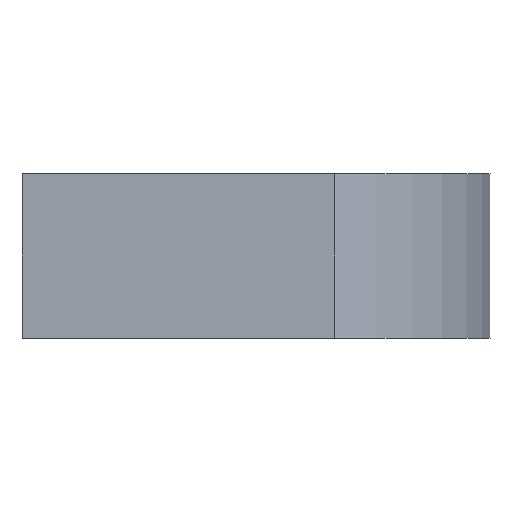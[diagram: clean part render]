
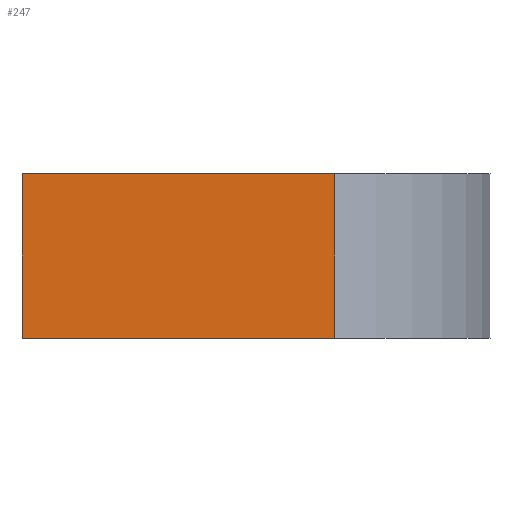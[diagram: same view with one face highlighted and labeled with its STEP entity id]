
A CAD part, front view. The second image highlights one B-rep face of the part: STEP entity #247.
In plain terms, the highlighted planar face has unit normal (0, -1, 0).
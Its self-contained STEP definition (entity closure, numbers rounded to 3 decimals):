
#15 = FACE_OUTER_BOUND ( 'NONE', #16, .T. ) ;
#16 = EDGE_LOOP ( 'NONE', ( #170, #412, #47, #411 ) ) ;
#19 = EDGE_CURVE ( 'NONE', #193, #171, #338, .T. ) ;
#30 = DIRECTION ( 'NONE',  ( 1., 0., 0. ) ) ;
#40 = LINE ( 'NONE', #180, #436 ) ;
#44 = EDGE_CURVE ( 'NONE', #55, #341, #383, .T. ) ;
#47 = ORIENTED_EDGE ( 'NONE', *, *, #19, .T. ) ;
#52 = PLANE ( 'NONE',  #317 ) ;
#55 = VERTEX_POINT ( 'NONE', #244 ) ;
#88 = DIRECTION ( 'NONE',  ( 0., 0., -1. ) ) ;
#102 = VECTOR ( 'NONE', #30, 1000. ) ;
#110 = DIRECTION ( 'NONE',  ( 0., 0., 1. ) ) ;
#131 = EDGE_CURVE ( 'NONE', #171, #341, #40, .T. ) ;
#151 = LINE ( 'NONE', #289, #310 ) ;
#155 = DIRECTION ( 'NONE',  ( 0., -1., 0. ) ) ;
#170 = ORIENTED_EDGE ( 'NONE', *, *, #44, .F. ) ;
#171 = VERTEX_POINT ( 'NONE', #381 ) ;
#176 = CARTESIAN_POINT ( 'NONE',  ( 0., 0., -10. ) ) ;
#180 = CARTESIAN_POINT ( 'NONE',  ( 19.844, 0., -10. ) ) ;
#193 = VERTEX_POINT ( 'NONE', #176 ) ;
#217 = DIRECTION ( 'NONE',  ( 0., 0., 1. ) ) ;
#244 = CARTESIAN_POINT ( 'NONE',  ( 0., 0., 0. ) ) ;
#247 = ADVANCED_FACE ( 'NONE', ( #15 ), #52, .T. ) ;
#281 = CARTESIAN_POINT ( 'NONE',  ( 19.844, 0., 0. ) ) ;
#289 = CARTESIAN_POINT ( 'NONE',  ( 0., 0., -10. ) ) ;
#310 = VECTOR ( 'NONE', #217, 1000. ) ;
#317 = AXIS2_PLACEMENT_3D ( 'NONE', #397, #155, #88 ) ;
#338 = LINE ( 'NONE', #413, #102 ) ;
#341 = VERTEX_POINT ( 'NONE', #281 ) ;
#370 = VECTOR ( 'NONE', #424, 1000. ) ;
#380 = EDGE_CURVE ( 'NONE', #193, #55, #151, .T. ) ;
#381 = CARTESIAN_POINT ( 'NONE',  ( 19.844, 0., -10. ) ) ;
#383 = LINE ( 'NONE', #421, #370 ) ;
#397 = CARTESIAN_POINT ( 'NONE',  ( 0., 0., -10. ) ) ;
#411 = ORIENTED_EDGE ( 'NONE', *, *, #131, .T. ) ;
#412 = ORIENTED_EDGE ( 'NONE', *, *, #380, .F. ) ;
#413 = CARTESIAN_POINT ( 'NONE',  ( 0., 0., -10. ) ) ;
#421 = CARTESIAN_POINT ( 'NONE',  ( 0., 0., 0. ) ) ;
#424 = DIRECTION ( 'NONE',  ( 1., 0., 0. ) ) ;
#436 = VECTOR ( 'NONE', #110, 1000. ) ;
